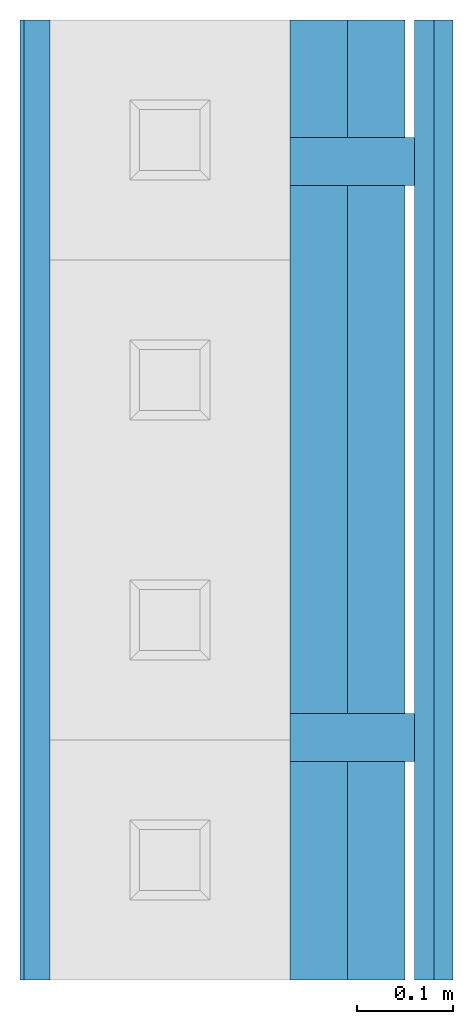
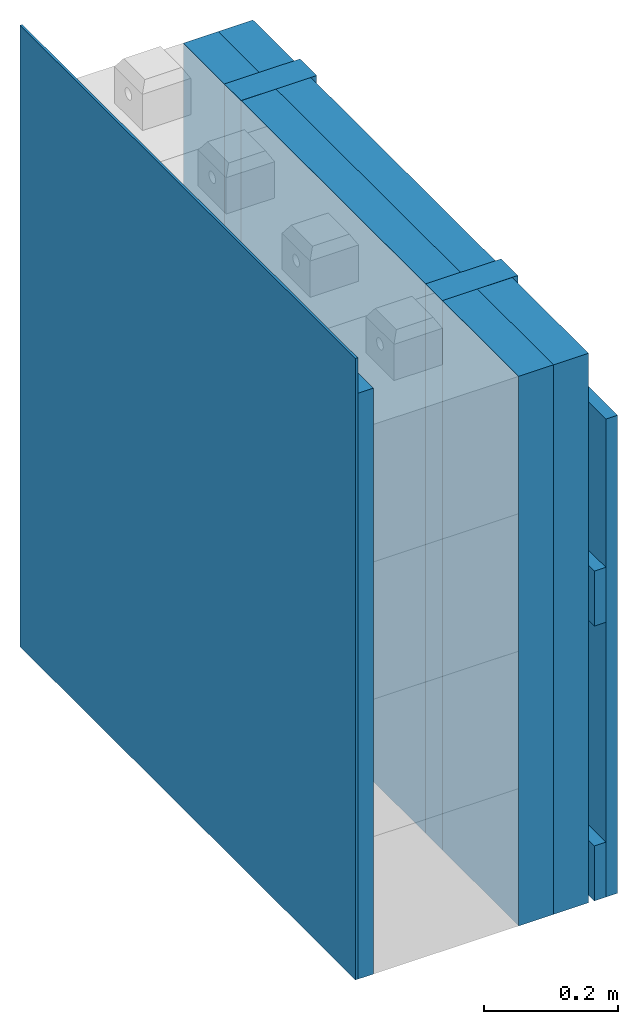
# One storey, incomplete: 8 walls, 1 opening.
"""IFC4 building model written with IfcOpenShell, lengths in centimetres."""

from ifc_helpers import new_model, entity, si_unit, converted_unit, direction, frame, origin, place, context, subcontext, project, spatial, indexed_curve, outline, extrude, material, constituent, constituent_set, type_object, element, save


model = new_model("IFC4")

# Units and contexts
model_context = context("Model", 3, precision=0.001, world=origin(), true_north=direction((0.0, 1.0)))
body_context = subcontext(model_context, "Body", "Model", "MODEL_VIEW")
ifc_project = project(units=[si_unit("LENGTHUNIT", "METRE", prefix="CENTI"), si_unit("AREAUNIT", "SQUARE_METRE"), si_unit("VOLUMEUNIT", "CUBIC_METRE"), converted_unit("PLANEANGLEUNIT", "DEGREE", entity("IfcPlaneAngleMeasure", 0.017453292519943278), si_unit("PLANEANGLEUNIT", "RADIAN"), dimensions=[0, 0, 0, 0, 0, 0, 0])], contexts=[model_context])

# Site, building, storey
site_placement = place(None, origin())
site = spatial("IfcSite", under=ifc_project, at=site_placement, Name="Default", CompositionType="ELEMENT")
building_placement = place(site_placement, origin())
building = spatial("IfcBuilding", under=site, at=building_placement, CompositionType="ELEMENT")
storey_placement = place(building_placement, frame((0.0, 0.0, -12.0)))
storey = spatial("IfcBuildingStorey", under=building, at=storey_placement, Name="L00__ABOVE Slab", CompositionType="ELEMENT", Elevation=-12.000000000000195)

# Walls
ifc_material_1 = material(Name="_FCD VENT LAYERS__Insulation__MW, CS(10/y)≥0.5 w/ Wind-proof Veil__Rockwool Airrock HD FB1")
ifc_constituent_1 = constituent(ifc_material_1, Name="_FCD VENT LAYERS__Insulation__MW, CS(10/y)≥0.5 w/ Wind-proof Veil__Rockwool Airrock HD FB1", fraction=1.0)
ifc_constituent_set_1 = constituent_set(constituents=[ifc_constituent_1], Name="Basic Wall:wll__EXT ENCLOSURE__Ventilated, Wood Insulation 6cm__TriqBriq 2")
wall_type_1 = type_object("IfcWallType", Name="Walls : Basic Wall : wll__EXT ENCLOSURE__Ventilated, Wood Insulation 6cm__TriqBriq 2", PredefinedType="STANDARD", material=ifc_constituent_set_1)
for number, where, z_axis, x_axis in (
    (1, (5000.984148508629, 1961.7726455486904, 10.0), (0.0, 0.0, 1.0), (0.0, -1.0, 0.0)),
    (2, (5006.98414850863, 1961.7726455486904, 10.0), (0.0, 0.0, 1.0), (0.0, -1.0, 0.0)),
):
    element("IfcWall", number, at=place(storey_placement, frame(where, z_axis=z_axis, x_axis=x_axis)), inside=storey, type_object=wall_type_1, material=ifc_constituent_set_1, Name="Walls : Basic Wall : wll__EXT ENCLOSURE__Ventilated, Wood Insulation 6cm__TriqBriq 2", PredefinedType="NOTDEFINED", context=body_context, shape_type="SweptSolid", body=[
        extrude(outline(indexed_curve([(-3.0000000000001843, -11.375000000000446), (3.0000000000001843, -11.375000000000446), (3.0000000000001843, 11.375000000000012), (-2.999999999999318, 11.375000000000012), (-3.0000000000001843, -11.375000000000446)], self_intersect=False)), frame((88.62499999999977, 0.0, 0.0), z_axis=(0.0, 0.0, 1.0), x_axis=(0.0, 1.0, 0.0)), (0.0, 0.0, 1.0), 100.00000000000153),
        extrude(outline(indexed_curve([(-3.0000000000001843, -6.124999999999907), (3.0000000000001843, -6.124999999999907), (3.0000000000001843, 6.124999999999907), (-3.0000000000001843, 6.124999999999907), (-3.0000000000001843, -6.124999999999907)], self_intersect=False)), frame((6.124999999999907, 0.0, 0.0), z_axis=(0.0, 0.0, 1.0), x_axis=(0.0, 1.0, 0.0)), (0.0, 0.0, 1.0), 100.00000000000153),
        extrude(outline(indexed_curve([(-3.0000000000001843, -27.500000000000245), (3.0000000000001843, -27.500000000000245), (3.0000000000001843, 27.500000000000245), (-3.0000000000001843, 27.500000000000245), (-3.0000000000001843, -27.500000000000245)], self_intersect=False)), frame((44.74999999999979, 0.0, 0.0), z_axis=(0.0, 0.0, 1.0), x_axis=(0.0, 1.0, 0.0)), (0.0, 0.0, 1.0), 100.00000000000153),
    ])
ifc_material_2 = material(Name="_STRUCTURE__WoodVertical")
wall_type_2 = type_object("IfcWallType", Name="Walls : Basic Wall : wll__EXT__Holzfassafenprofil1__TriqBriq", PredefinedType="STANDARD")
wall_1_placement = place(storey_placement, frame((5013.984148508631, 1961.7726455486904, 10.0), z_axis=(0.0, 0.0, 1.0), x_axis=(0.0, -1.0, 0.0)))
element("IfcWall", 3, at=wall_1_placement, inside=storey, type_object=wall_type_2, material=ifc_material_2, Name="Walls : Basic Wall : wll__EXT__Holzfassafenprofil1__TriqBriq", PredefinedType="NOTDEFINED", context=body_context, shape_type="SweptSolid", body=[
    extrude(outline(indexed_curve([(100.00000000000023, 0.9999999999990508), (-1.4438228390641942e-15, 0.9999999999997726), (1.4438228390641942e-15, -0.9999999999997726), (100.00000000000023, -1.0000000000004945), (100.00000000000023, 0.9999999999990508)], self_intersect=False)), origin(), (0.0, 0.0, 1.0), 86.97373524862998),
])

# Wall, opening
ifc_material_3 = material(Name="_STRUCTURE__Wood Solid")
wall_type_3 = type_object("IfcWallType", Name="Walls : Basic Wall : wll__EXT COVERING__Wood 2cm", PredefinedType="STANDARD")
wall_2_placement = place(storey_placement, frame((5011.98414850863, 1961.7726455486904, 10.0), z_axis=(0.0, 0.0, 1.0), x_axis=(0.0, -1.0, 0.0)))
wall_2 = element("IfcWall", 4, at=wall_2_placement, inside=storey, type_object=wall_type_3, material=ifc_material_3, Name="Walls : Basic Wall : wll__EXT COVERING__Wood 2cm", PredefinedType="NOTDEFINED", context=body_context, shape_type="SweptSolid", body=[
    extrude(outline(indexed_curve([(-1.000000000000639, -49.99999999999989), (1.000000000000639, -49.99999999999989), (1.000000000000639, 50.00000000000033), (-0.9999999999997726, 50.00000000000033), (-1.000000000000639, -49.99999999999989)], self_intersect=False)), frame((50.0, 0.0, 0.0), z_axis=(0.0, 0.0, 1.0), x_axis=(0.0, 1.0, 0.0)), (0.0, 0.0, 1.0), 10.000000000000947),
    extrude(outline(indexed_curve([(-1.000000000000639, -49.99999999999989), (1.000000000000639, -49.99999999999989), (1.000000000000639, 50.00000000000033), (-0.9999999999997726, 50.00000000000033), (-1.000000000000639, -49.99999999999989)], self_intersect=False)), frame((50.0, 0.0, 50.0), z_axis=(0.0, 0.0, 1.0), x_axis=(0.0, 1.0, 0.0)), (0.0, 0.0, 1.0), 10.000000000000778),
])
opening_placement = place(wall_2_placement, frame((1961.772645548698, -5011.984148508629, 2.0)))
element("IfcOpeningElement", 5, at=opening_placement, cuts=wall_2, Name="Walls : Basic Wall : wll__EXT COVERING__Wood 2cm", PredefinedType="OPENING", context=body_context, shape_type="SweptSolid", body=[
    extrude(outline(indexed_curve([(-50.0000000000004, -19.999999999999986), (50.000000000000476, -19.999999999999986), (50.00000000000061, 20.0), (-50.000000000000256, 20.0), (-50.0000000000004, -19.999999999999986)], self_intersect=False)), frame((-1911.7726455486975, 4512.984148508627, 78.0), z_axis=(0.0, 1.0, 0.0), x_axis=(1.0, 0.0, 0.0)), (0.0, 0.0, 1.0), 499.99999999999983),
    extrude(outline(indexed_curve([(-50.0000000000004, -19.99999999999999), (50.000000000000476, -19.99999999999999), (50.00000000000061, 19.99999999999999), (-50.000000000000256, 19.99999999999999), (-50.0000000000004, -19.99999999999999)], self_intersect=False)), frame((-1911.7726455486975, 4512.984148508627, 28.0), z_axis=(0.0, 1.0, 0.0), x_axis=(1.0, 0.0, 0.0)), (0.0, 0.0, 1.0), 499.99999999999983),
])

# Walls
ifc_material_4 = material(Name="_FCD VENT LAYERS__Support Board__3-Layered Wood Board", Category="Ceramic")
wall_type_4 = type_object("IfcWallType", Name="Walls : Basic Wall : wll__INT PARTITION__3-Ply Wood 2.7cm__TriqBriq, CI.1", PredefinedType="STANDARD")
wall_3_placement = place(storey_placement, frame((4971.634148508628, 1961.77264554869, 10.0), z_axis=(0.0, 0.0, 1.0), x_axis=(0.0, -1.0, 0.0)))
element("IfcWall", 6, at=wall_3_placement, inside=storey, type_object=wall_type_4, material=ifc_material_4, Name="Walls : Basic Wall : wll__INT PARTITION__3-Ply Wood 2.7cm__TriqBriq, CI.1", PredefinedType="NOTDEFINED", context=body_context, shape_type="SweptSolid", body=[
    extrude(outline(indexed_curve([(100.00000000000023, 1.3499999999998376), (-1.9491608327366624e-15, 1.349999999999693), (1.9491608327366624e-15, -1.349999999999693), (100.00000000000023, -1.3499999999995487), (100.00000000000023, 1.3499999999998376)], self_intersect=False)), origin(), (0.0, 0.0, 1.0), 106.6033333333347),
])
ifc_material_5 = material(Name="_WLL & CLG FINISHES__Spray-cork", Category="플라스틱")
ifc_constituent_2 = constituent(ifc_material_5, Name="_WLL & CLG FINISHES__Spray-cork", Category="플라스틱", fraction=1.0)
ifc_constituent_set_2 = constituent_set(constituents=[ifc_constituent_2], Name="Basic Wall:wll__INT FINISH__Spritzkork 0.4cm__TriqBriq, TN.1")
wall_type_5 = type_object("IfcWallType", Name="Walls : Basic Wall : wll__INT FINISH__Spritzkork 0.4cm__TriqBriq, TN.1", PredefinedType="STANDARD", material=ifc_constituent_set_2)
wall_4_placement = place(storey_placement, frame((4970.084148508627, 1961.77264554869, 10.0), z_axis=(0.0, 0.0, 1.0), x_axis=(0.0, -1.0, 0.0)))
element("IfcWall", 7, at=wall_4_placement, inside=storey, type_object=wall_type_5, material=ifc_constituent_set_2, Name="Walls : Basic Wall : wll__INT FINISH__Spritzkork 0.4cm__TriqBriq, TN.1", PredefinedType="NOTDEFINED", context=body_context, shape_type="SweptSolid", body=[
    extrude(outline(indexed_curve([(100.00000000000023, 0.2000000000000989), (-2.8876456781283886e-16, 0.19999999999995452), (2.8876456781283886e-16, -0.19999999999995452), (100.00000000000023, -0.19999999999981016), (100.00000000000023, 0.2000000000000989)], self_intersect=False)), origin(), (0.0, 0.0, 1.0), 113.08526190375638),
])
wall_type_6 = type_object("IfcWallType", Name="Walls : Basic Wall : wll__EXT COVERING__Wood 13cm 2", PredefinedType="STANDARD")
for number, where, z_axis, x_axis, name in (
    (8, (5004.484148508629, 1889.5226455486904, 10.0), (0.0, 0.0, 1.0), (0.0, -1.0, 0.0), "Walls : Basic Wall : wll__EXT COVERING__Wood 13cm 2"),
    (9, (5004.484148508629, 1949.5226455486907, 10.0), (0.0, 0.0, 1.0), (0.0, -1.0, 0.0), "Walls : Basic Wall : wll__EXT COVERING__Wood 13cm 2"),
):
    element("IfcWall", number, at=place(storey_placement, frame(where, z_axis=z_axis, x_axis=x_axis)), inside=storey, type_object=wall_type_6, material=ifc_material_3, Name=name, PredefinedType="NOTDEFINED", context=body_context, shape_type="SweptSolid", body=[
        extrude(outline(indexed_curve([(4.99999999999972, 6.500000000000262), (-9.384848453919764e-15, 6.500000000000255), (9.384848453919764e-15, -6.500000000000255), (4.999999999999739, -6.500000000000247), (4.99999999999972, 6.500000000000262)], self_intersect=False)), origin(), (0.0, 0.0, 1.0), 100.00000000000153),
    ])

save(model, "model.ifc")
